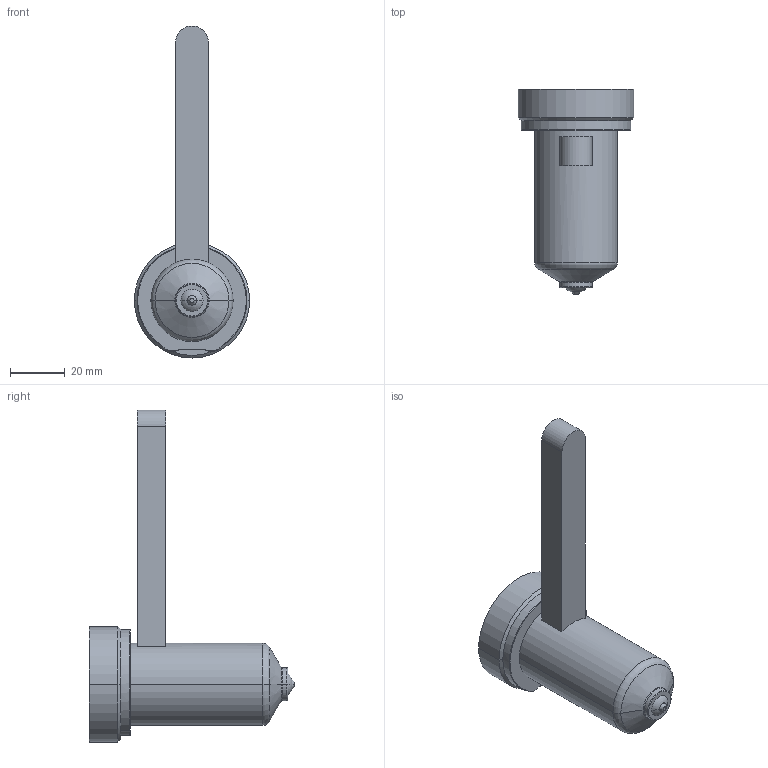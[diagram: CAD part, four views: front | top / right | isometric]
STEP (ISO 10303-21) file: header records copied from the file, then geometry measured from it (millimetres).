
FILE_DESCRIPTION((''),'2;1');
FILE_NAME('EO08_PG-BL_WR_060_COT','2024-02-19T11:06:12',('sundharh'),(''),'CREO PARAMETRIC BY PTC INC, 2023154','CREO PARAMETRIC BY PTC INC, 2023154','');
FILE_SCHEMA(('CONFIG_CONTROL_DESIGN'));
Length unit declared in the file: millimetre
Products named in the file (1): EO08_PG-BL_WR_060_COT
Bounding box: 42 x 75 x 121 mm (x, y, z)
Volume: 68285.6 mm3; surface area: 13271.4 mm2
Topology: 1 solids, 1 shells, 40 faces, 85 edges, 50 vertices
Faces by surface type: cylinder 13, plane 10, torus 9, cone 6, sphere 2
Entity records: 1185 total; most frequent: CARTESIAN_POINT 255, DIRECTION 209, ORIENTED_EDGE 170, AXIS2_PLACEMENT_3D 90, EDGE_CURVE 85, VERTEX_POINT 50, CIRCLE 50, EDGE_LOOP 43
